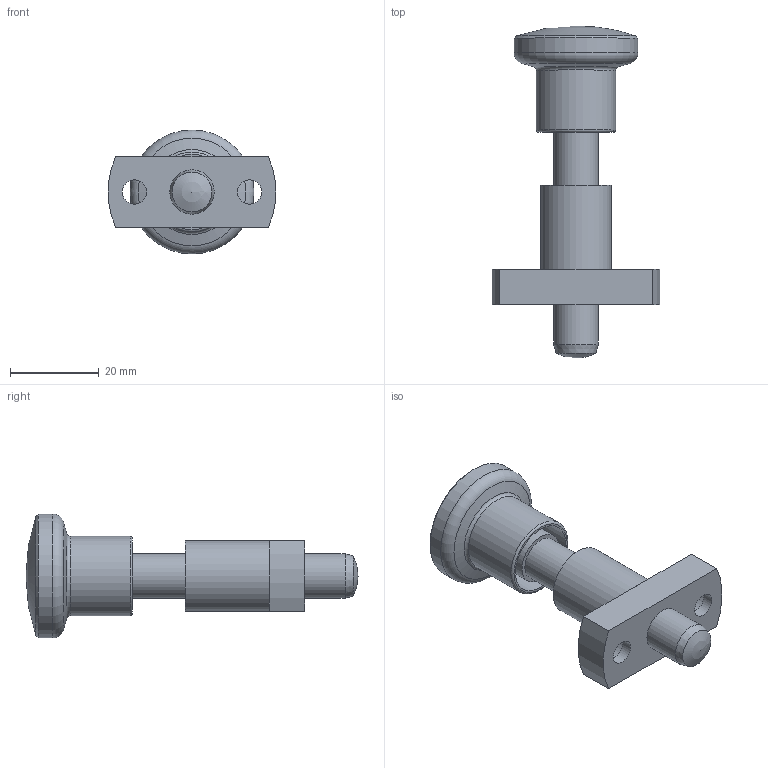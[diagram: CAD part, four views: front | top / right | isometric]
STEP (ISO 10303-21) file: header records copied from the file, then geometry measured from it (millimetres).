
FILE_DESCRIPTION( ( 'STEP AP203' ), '1' );
FILE_NAME( 'C:/Temp/Ganter_Step_05_03_2020/data/3_1/gn817_3/gn_817_3_b/Indexing plunger GN 817.3-10-24-B (activated).stp', '2020-03-12T09:03:02', ( 'License CC BY-ND 4.0' ), ( 'CADENAS' ), ' ', 'PARTsolutions', ' ' );
FILE_SCHEMA( ( 'CONFIG_CONTROL_DESIGN' ) );
Length unit declared in the file: millimetre
Products named in the file (3): Indexing plunger GN 817.3-10-24-B (activated); _Indexing plunger GN 817.3-10-24-B betaetigt-2; _Indexing plunger GN 817.3-10-24-B (activated)-1
Assembly tree (2 placements, depth 2):
  Indexing plunger GN 817.3-10-24-B (activated)
    _Indexing plunger GN 817.3-10-24-B betaetigt-2
    _Indexing plunger GN 817.3-10-24-B (activated)-1
Bounding box: 37.86 x 75 x 28 mm (x, y, z)
Volume: 15958.1 mm3; surface area: 9741.3 mm2
Topology: 2 solids, 2 shells, 40 faces, 77 edges, 48 vertices
Faces by surface type: cylinder 17, plane 15, cone 3, torus 3, sphere 2
Full cylindrical faces by diameter (mm): 5.5 x2, 9.4 x2, 10 x4, 11 x2, 11.8 x1, 16 x1, 16.1 x1, 18 x1, 28 x1
Entity records: 998 total; most frequent: DIRECTION 176, CARTESIAN_POINT 139, ORIENTED_EDGE 100, AXIS2_PLACEMENT_3D 83, EDGE_LOOP 76, FACE_OUTER_BOUND 58, EDGE_CURVE 50, VERTEX_POINT 46
